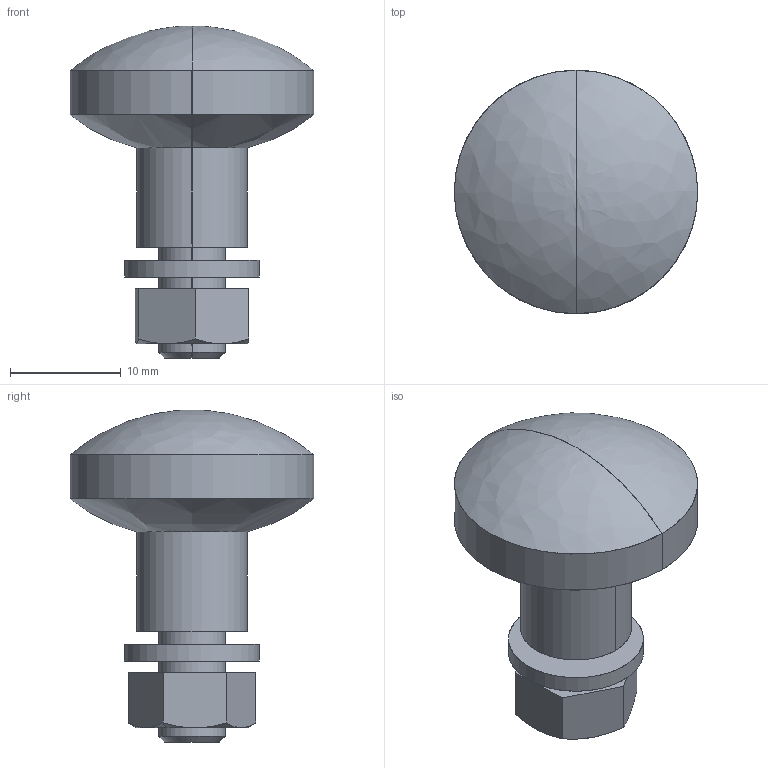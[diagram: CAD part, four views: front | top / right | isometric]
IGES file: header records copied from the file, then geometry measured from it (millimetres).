
Start section: SolidWorks IGES FILE using analytic representation for surfaces
Global section: file name: \\Ls-wvld1d\share\シブタニ\3D設計\ネジ・アイボルト\SCR-SB100\SCR-SB100.IGS,41HSolidWorks; native system: 2003 by SolidWorks Corporation; preprocessor: Version 5.3; author: user; date: 130628.155451; units: millimetre
Bounding box: 22 x 22 x 30 mm (x, y, z)
Surface area: 2239.9 mm2 (no closed solid volume)
Topology: 0 solids, 0 shells, 37 faces, 505 edges, 503 vertices
Faces by surface type: revolution 19, bspline 18
